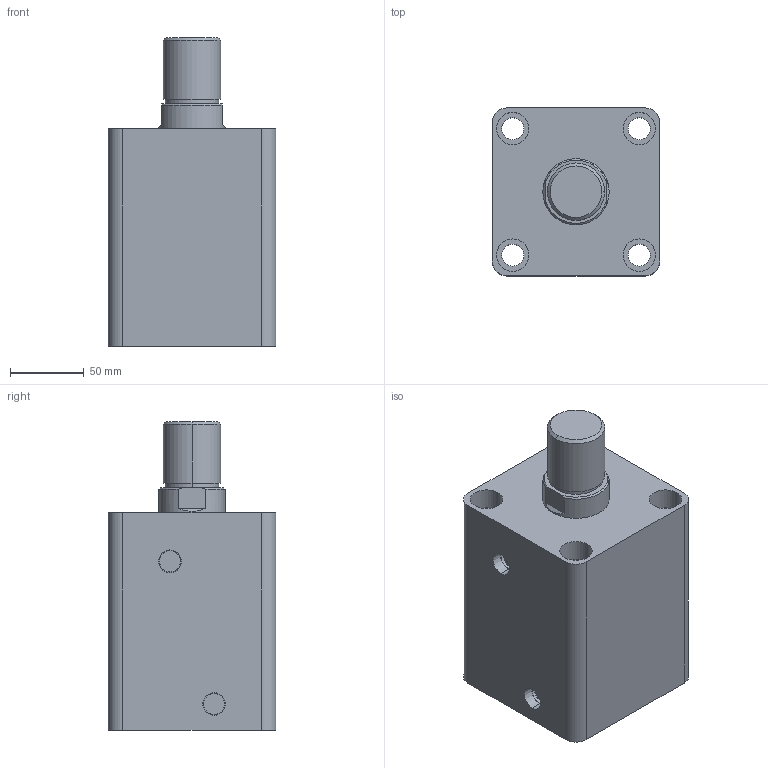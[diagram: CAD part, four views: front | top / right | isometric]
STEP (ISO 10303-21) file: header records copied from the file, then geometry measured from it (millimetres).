
FILE_DESCRIPTION (( 'STEP AP203' ), '1' );
FILE_NAME ('HTB-SD80-70W.STEP', '2019-10-07T08:33:05', ( '微软用户' ), ( '微软中国' ), 'SwSTEP 2.0', 'SolidWorks 2012', '' );
FILE_SCHEMA (( 'CONFIG_CONTROL_DESIGN' ));
Length unit declared in the file: millimetre
Products named in the file (3): HTB-SD80-70W活塞杆; HTB-SD80-70掛极; HTB-SD80-70W
Assembly tree (2 placements, depth 2):
  HTB-SD80-70W
    HTB-SD80-70掛极
    HTB-SD80-70W活塞杆
Bounding box: 114 x 114 x 210 mm (x, y, z)
Volume: 1616700.1 mm3; surface area: 197582.3 mm2
Topology: 2 solids, 2 shells, 87 faces, 190 edges, 124 vertices
Faces by surface type: cylinder 44, plane 29, cone 8, torus 6
Entity records: 2761 total; most frequent: DIRECTION 478, CARTESIAN_POINT 434, ORIENTED_EDGE 380, AXIS2_PLACEMENT_3D 204, EDGE_CURVE 190, VERTEX_POINT 124, EDGE_LOOP 112, CIRCLE 112
